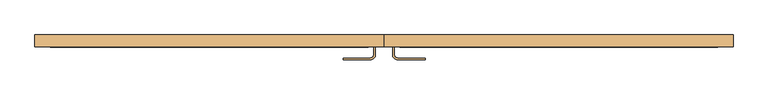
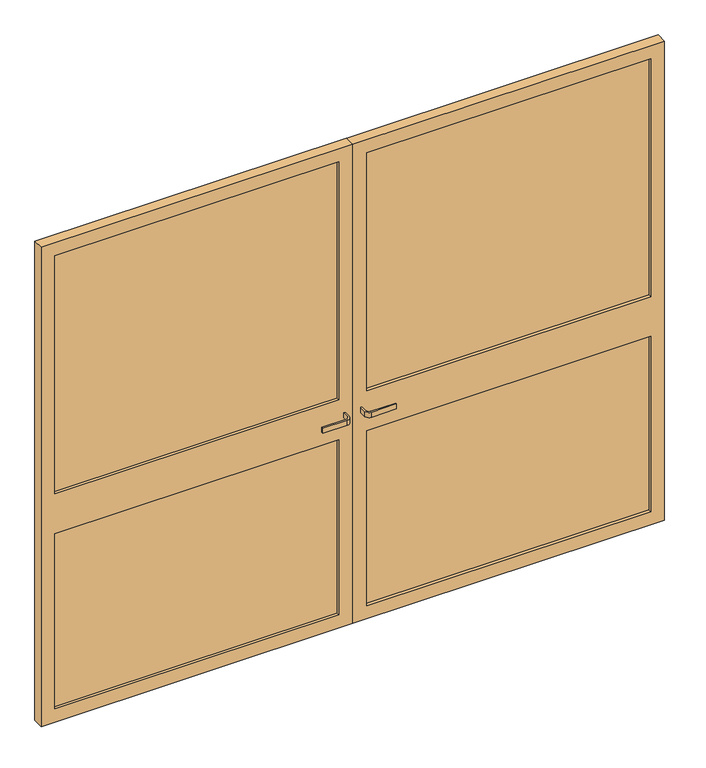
"""IFC4 building model written with IfcOpenShell, lengths in millimetres: door geometry, PORTON_REJA : PORTON_REJA."""

from ifc_helpers import new_model, si_unit, point, frame, frame_2d, origin, place, context, project, spatial, polyline, circle_curve, trimmed, segment, composite_curve, outline, extrude, source, transform, mapped, element, save


def door_b53b04aa(model_context):
    return source(origin(), model_context, "Body", "SweptSolid", [
        extrude(outline(polyline([(2100.0, 0.8168501), (0.0, 0.8168501), (0.0, 1292.266634), (2100.0, 1292.266634), (2100.0, 0.8168501)]), holes=[polyline([(2042.85, 57.9668501), (2042.85, 1235.116634), (1000.0, 1235.116634), (1000.0, 57.9668501), (2042.85, 57.9668501)]), polyline([(825.0, 1235.116634), (57.15, 1235.116634), (57.15, 57.9668501), (825.0, 57.9668501), (825.0, 1235.116634)])]), frame((0.0, -60.0, 0.0), z_axis=(0.0, 1.0, 0.0), x_axis=(0.0, 0.0, 1.0)), (0.0, 0.0, 1.0), 44.45),
        extrude(outline(polyline([(2100.0, -0.7706499), (2100.0, -1292.266634), (0.0, -1292.266634), (0.0, -0.7706499), (2100.0, -0.7706499)]), holes=[polyline([(2042.85, -1235.116634), (2042.85, -57.9206499), (1000.0, -57.9206499), (1000.0, -1235.116634), (2042.85, -1235.116634)]), polyline([(825.0, -57.9206499), (57.15, -57.9206499), (57.15, -1235.116634), (825.0, -1235.116634), (825.0, -57.9206499)])]), frame((0.0, -60.0, 0.0), z_axis=(0.0, 1.0, 0.0), x_axis=(0.0, 0.0, 1.0)), (0.0, 0.0, 1.0), 44.45),
        extrude(outline(polyline([(1235.116634, -28.25), (1235.116634, -47.3), (57.9668501, -47.3), (57.9668501, -28.25), (1235.116634, -28.25)])), frame((0.0, 0.0, 1000.0), z_axis=(0.0, 0.0, 1.0), x_axis=(1.0, 0.0, 0.0)), (0.0, 0.0, 1.0), 1042.85),
        extrude(outline(polyline([(1235.116634, -28.25), (1235.116634, -47.3), (57.9668501, -47.3), (57.9668501, -28.25), (1235.116634, -28.25)])), frame((0.0, 0.0, 57.15), z_axis=(0.0, 0.0, 1.0), x_axis=(1.0, 0.0, 0.0)), (0.0, 0.0, 1.0), 767.85),
        extrude(outline(polyline([(-57.9206499, -28.25), (-57.9206499, -47.3), (-1235.116634, -47.3), (-1235.116634, -28.25), (-57.9206499, -28.25)])), frame((0.0, 0.0, 1000.0), z_axis=(0.0, 0.0, 1.0), x_axis=(1.0, 0.0, 0.0)), (0.0, 0.0, 1.0), 1042.85),
        extrude(outline(polyline([(-57.9206499, -28.25), (-57.9206499, -47.3), (-1235.116634, -47.3), (-1235.116634, -28.25), (-57.9206499, -28.25)])), frame((0.0, 0.0, 57.15), z_axis=(0.0, 0.0, 1.0), x_axis=(1.0, 0.0, 0.0)), (0.0, 0.0, 1.0), 767.85),
        extrude(outline(composite_curve([segment(trimmed(circle_curve(frame_2d((-50.7768999, -88.25)), 19.05), [point((-31.7268999, -88.25))], [point((-50.7768999, -107.3))], False, "CARTESIAN"), True, "CONTINUOUS"), segment(polyline([(-50.7768999, -107.3), (-151.694019, -107.3), (-151.694019, -100.95), (-50.7768999, -100.95)]), True, "CONTINUOUS"), segment(trimmed(circle_curve(frame_2d((-50.7768999, -88.25)), 12.7), [point((-50.7768999, -100.95))], [point((-38.0768999, -88.25))], True, "CARTESIAN"), True, "CONTINUOUS"), segment(polyline([(-38.0768999, -88.25), (-38.0768999, -60.0), (-31.7268999, -60.0), (-31.7268999, -88.25)]), True, "CONTINUOUS")], self_intersect=False)), frame((0.0, 0.0, 914.5324752), z_axis=(0.0, 0.0, 1.0), x_axis=(1.0, 0.0, 0.0)), (0.0, 0.0, 1.0), 21.9479028),
        extrude(outline(composite_curve([segment(polyline([(31.7731001, -88.25), (31.7731001, -60.0), (38.1231001, -60.0), (38.1231001, -88.25)]), True, "CONTINUOUS"), segment(trimmed(circle_curve(frame_2d((50.8231001, -88.25)), 12.7), [point((38.1231001, -88.25))], [point((50.8231001, -100.95))], True, "CARTESIAN"), True, "CONTINUOUS"), segment(polyline([(50.8231001, -100.95), (153.6171495, -100.95), (153.6171495, -107.3), (50.8231001, -107.3)]), True, "CONTINUOUS"), segment(trimmed(circle_curve(frame_2d((50.8231001, -88.25)), 19.05), [point((50.8231001, -107.3))], [point((31.7731001, -88.25))], False, "CARTESIAN"), True, "CONTINUOUS")], self_intersect=False)), frame((0.0, 0.0, 914.5324752), z_axis=(0.0, 0.0, 1.0), x_axis=(1.0, 0.0, 0.0)), (0.0, 0.0, 1.0), 21.9479028),
    ])


if __name__ == "__main__":
    model = new_model("IFC4")
    model_context = context("Model", 3, world=origin())
    ifc_project = project(units=[si_unit("LENGTHUNIT", "METRE", prefix="MILLI")], contexts=[model_context])
    site = spatial("IfcSite", under=ifc_project)
    building = spatial("IfcBuilding", under=site)
    placement = place(None, origin())
    door_shape = door_b53b04aa(model_context)
    element("IfcDoor", 1, ObjectType="PORTON_REJA : PORTON_REJA", at=placement, inside=building, context=model_context, shape_type="MappedRepresentation", body=[
        mapped(door_shape, transform((0.0, 0.0, 0.0), x_axis=(1.0, 0.0, 0.0), y_axis=(0.0, 1.0, 0.0), z_axis=(0.0, 0.0, 1.0))),
    ])
    save(model, "model.ifc")
